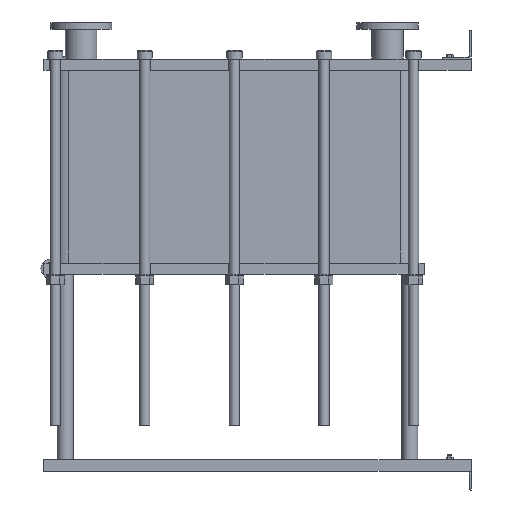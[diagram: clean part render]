
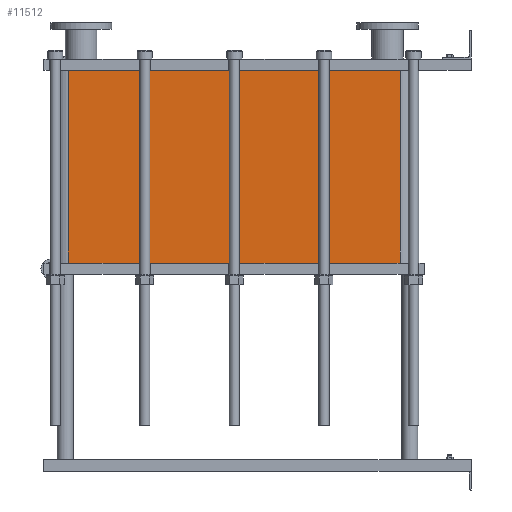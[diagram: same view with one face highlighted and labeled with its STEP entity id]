
A CAD part, left-side view. The second image highlights one B-rep face of the part: STEP entity #11512.
In plain terms, the highlighted planar face has unit normal (-1, 0, 0).
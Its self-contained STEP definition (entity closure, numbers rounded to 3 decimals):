
#1129=LINE('',#23232,#2102);
#1130=LINE('',#23236,#2103);
#1131=LINE('',#23238,#2104);
#1132=LINE('',#23239,#2105);
#2102=VECTOR('',#15887,10.);
#2103=VECTOR('',#15892,10.);
#2104=VECTOR('',#15893,10.);
#2105=VECTOR('',#15894,10.);
#3267=FACE_OUTER_BOUND('',#4093,.T.);
#4093=EDGE_LOOP('',(#10103,#10104,#10105,#10106));
#5642=VERTEX_POINT('',#23229);
#5643=VERTEX_POINT('',#23231);
#5644=VERTEX_POINT('',#23235);
#5645=VERTEX_POINT('',#23237);
#7159=EDGE_CURVE('',#5643,#5642,#1129,.T.);
#7161=EDGE_CURVE('',#5642,#5644,#1130,.T.);
#7162=EDGE_CURVE('',#5645,#5644,#1131,.T.);
#7163=EDGE_CURVE('',#5645,#5643,#1132,.T.);
#10103=ORIENTED_EDGE('',*,*,#7161,.T.);
#10104=ORIENTED_EDGE('',*,*,#7162,.F.);
#10105=ORIENTED_EDGE('',*,*,#7163,.T.);
#10106=ORIENTED_EDGE('',*,*,#7159,.T.);
#10857=PLANE('',#12751);
#11512=ADVANCED_FACE('',(#3267),#10857,.T.);
#12751=AXIS2_PLACEMENT_3D('',#23234,#15890,#15891);
#15887=DIRECTION('',(0.,0.,-1.));
#15890=DIRECTION('center_axis',(-1.,0.,0.));
#15891=DIRECTION('ref_axis',(0.,1.,0.));
#15892=DIRECTION('',(0.,-1.,0.));
#15893=DIRECTION('',(0.,0.,-1.));
#15894=DIRECTION('',(0.,1.,0.));
#23229=CARTESIAN_POINT('',(-200.,1414.,-676.2));
#23231=CARTESIAN_POINT('',(-200.,1414.,0.));
#23232=CARTESIAN_POINT('',(-200.,1414.,0.));
#23234=CARTESIAN_POINT('Origin',(-200.,248.,0.));
#23235=CARTESIAN_POINT('',(-200.,248.,-676.2));
#23236=CARTESIAN_POINT('',(-200.,539.5,-676.2));
#23237=CARTESIAN_POINT('',(-200.,248.,0.));
#23238=CARTESIAN_POINT('',(-200.,248.,0.));
#23239=CARTESIAN_POINT('',(-200.,248.,0.));
